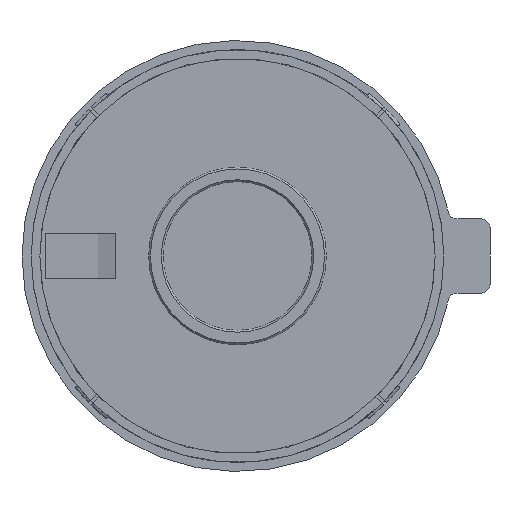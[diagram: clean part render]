
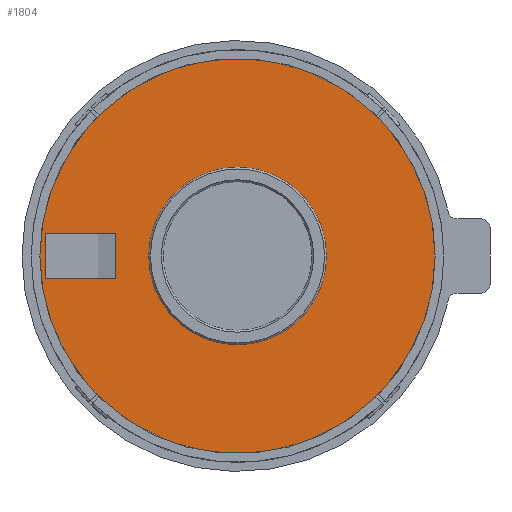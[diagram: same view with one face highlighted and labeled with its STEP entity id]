
A CAD part, front view. The second image highlights one B-rep face of the part: STEP entity #1804.
In plain terms, the highlighted planar face has unit normal (0, -1, 0).
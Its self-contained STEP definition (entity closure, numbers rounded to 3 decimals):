
#343=DIRECTION('',(0.,0.,-1.));
#344=VECTOR('',#343,10.5);
#345=CARTESIAN_POINT('',(-28.,0.,5.25));
#346=LINE('',#345,#344);
#347=DIRECTION('',(-1.,0.,0.));
#348=VECTOR('',#347,16.);
#349=CARTESIAN_POINT('',(-28.,0.,5.25));
#350=LINE('',#349,#348);
#351=DIRECTION('',(0.,0.,-1.));
#352=VECTOR('',#351,10.5);
#353=CARTESIAN_POINT('',(-44.,0.,5.25));
#354=LINE('',#353,#352);
#355=DIRECTION('',(1.,0.,0.));
#356=VECTOR('',#355,16.);
#357=CARTESIAN_POINT('',(-44.,0.,-5.25));
#358=LINE('',#357,#356);
#369=CARTESIAN_POINT('',(0.,0.,0.));
#370=DIRECTION('',(0.,-1.,0.));
#371=DIRECTION('',(1.,0.,0.));
#372=AXIS2_PLACEMENT_3D('',#369,#370,#371);
#374=CARTESIAN_POINT('',(0.,0.,0.));
#375=DIRECTION('',(0.,-1.,0.));
#376=DIRECTION('',(-1.,0.,0.));
#377=AXIS2_PLACEMENT_3D('',#374,#375,#376);
#389=CARTESIAN_POINT('',(0.,0.,0.));
#390=DIRECTION('',(0.,-1.,0.));
#391=DIRECTION('',(-1.,0.,0.));
#392=AXIS2_PLACEMENT_3D('',#389,#390,#391);
#394=CARTESIAN_POINT('',(0.,0.,0.));
#395=DIRECTION('',(0.,-1.,0.));
#396=DIRECTION('',(1.,0.,0.));
#397=AXIS2_PLACEMENT_3D('',#394,#395,#396);
#1471=CARTESIAN_POINT('',(-44.,0.,5.25));
#1472=CARTESIAN_POINT('',(-44.,0.,-5.25));
#1473=VERTEX_POINT('',#1471);
#1474=VERTEX_POINT('',#1472);
#1475=CARTESIAN_POINT('',(-28.,0.,-5.25));
#1477=VERTEX_POINT('',#1475);
#1481=CARTESIAN_POINT('',(-28.,0.,5.25));
#1482=VERTEX_POINT('',#1481);
#1487=CARTESIAN_POINT('',(45.4,0.,0.));
#1488=CARTESIAN_POINT('',(-45.4,0.,0.));
#1489=VERTEX_POINT('',#1487);
#1490=VERTEX_POINT('',#1488);
#1707=CARTESIAN_POINT('',(-20.4,0.,0.));
#1708=CARTESIAN_POINT('',(20.4,0.,0.));
#1709=VERTEX_POINT('',#1707);
#1710=VERTEX_POINT('',#1708);
#1777=CARTESIAN_POINT('',(0.,0.,0.));
#1778=DIRECTION('',(0.,1.,0.));
#1779=DIRECTION('',(1.,0.,0.));
#1780=AXIS2_PLACEMENT_3D('',#1777,#1778,#1779);
#1781=PLANE('',#1780);
#1783=ORIENTED_EDGE('',*,*,#1782,.F.);
#1785=ORIENTED_EDGE('',*,*,#1784,.F.);
#1786=EDGE_LOOP('',(#1783,#1785));
#1787=FACE_OUTER_BOUND('',#1786,.F.);
#1789=ORIENTED_EDGE('',*,*,#1788,.F.);
#1791=ORIENTED_EDGE('',*,*,#1790,.T.);
#1793=ORIENTED_EDGE('',*,*,#1792,.T.);
#1795=ORIENTED_EDGE('',*,*,#1794,.T.);
#1796=EDGE_LOOP('',(#1789,#1791,#1793,#1795));
#1797=FACE_BOUND('',#1796,.F.);
#1799=ORIENTED_EDGE('',*,*,#1798,.T.);
#1801=ORIENTED_EDGE('',*,*,#1800,.T.);
#1802=EDGE_LOOP('',(#1799,#1801));
#1803=FACE_BOUND('',#1802,.F.);
#1804=ADVANCED_FACE('',(#1787,#1797,#1803),#1781,.F.);
#373=CIRCLE('',#372,45.4);
#378=CIRCLE('',#377,45.4);
#393=CIRCLE('',#392,20.4);
#398=CIRCLE('',#397,20.4);
#1782=EDGE_CURVE('',#1489,#1490,#373,.T.);
#1784=EDGE_CURVE('',#1490,#1489,#378,.T.);
#1788=EDGE_CURVE('',#1482,#1477,#346,.T.);
#1790=EDGE_CURVE('',#1482,#1473,#350,.T.);
#1792=EDGE_CURVE('',#1473,#1474,#354,.T.);
#1794=EDGE_CURVE('',#1474,#1477,#358,.T.);
#1798=EDGE_CURVE('',#1709,#1710,#393,.T.);
#1800=EDGE_CURVE('',#1710,#1709,#398,.T.);
